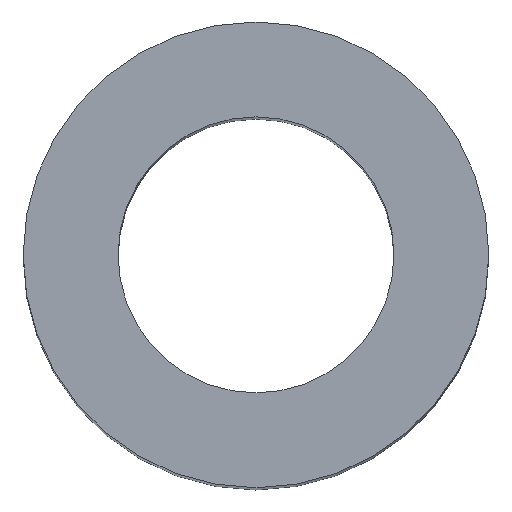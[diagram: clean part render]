
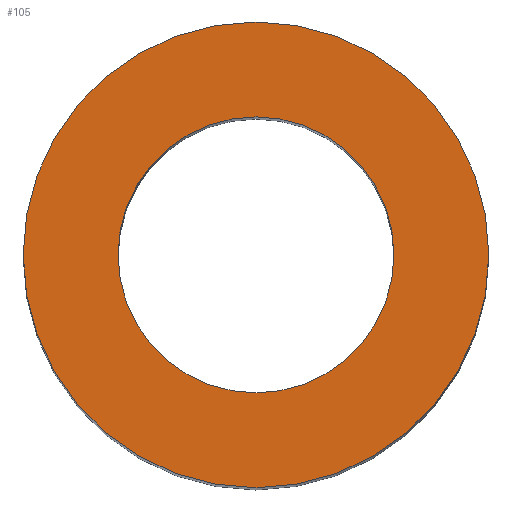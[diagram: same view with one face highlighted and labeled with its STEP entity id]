
A CAD part, top view. The second image highlights one B-rep face of the part: STEP entity #105.
In plain terms, the highlighted planar face has unit normal (0, 0, 1).
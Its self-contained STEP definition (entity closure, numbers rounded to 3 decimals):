
#21 = EDGE_CURVE('',#22,#22,#24,.T.);
#22 = VERTEX_POINT('',#23);
#23 = CARTESIAN_POINT('',(2.7,0.,15.2));
#24 = SURFACE_CURVE('',#25,(#30,#42),.PCURVE_S1.);
#25 = CIRCLE('',#26,2.7);
#26 = AXIS2_PLACEMENT_3D('',#27,#28,#29);
#27 = CARTESIAN_POINT('',(0.,0.,15.2));
#28 = DIRECTION('',(0.,0.,1.));
#29 = DIRECTION('',(1.,0.,-0.));
#30 = PCURVE('',#31,#36);
#31 = CYLINDRICAL_SURFACE('',#32,2.7);
#32 = AXIS2_PLACEMENT_3D('',#33,#34,#35);
#33 = CARTESIAN_POINT('',(0.,0.,0.));
#34 = DIRECTION('',(0.,0.,1.));
#35 = DIRECTION('',(1.,0.,-0.));
#36 = DEFINITIONAL_REPRESENTATION('',(#37),#41);
#37 = LINE('',#38,#39);
#38 = CARTESIAN_POINT('',(0.,15.2));
#39 = VECTOR('',#40,1.);
#40 = DIRECTION('',(1.,0.));
#41 = ( GEOMETRIC_REPRESENTATION_CONTEXT(2) 
PARAMETRIC_REPRESENTATION_CONTEXT() REPRESENTATION_CONTEXT('2D SPACE',''
  ) );
#42 = PCURVE('',#43,#48);
#43 = PLANE('',#44);
#44 = AXIS2_PLACEMENT_3D('',#45,#46,#47);
#45 = CARTESIAN_POINT('',(0.,0.,15.2));
#46 = DIRECTION('',(0.,0.,1.));
#47 = DIRECTION('',(1.,0.,-0.));
#48 = DEFINITIONAL_REPRESENTATION('',(#49),#53);
#49 = CIRCLE('',#50,2.7);
#50 = AXIS2_PLACEMENT_2D('',#51,#52);
#51 = CARTESIAN_POINT('',(0.,0.));
#52 = DIRECTION('',(1.,0.));
#53 = ( GEOMETRIC_REPRESENTATION_CONTEXT(2) 
PARAMETRIC_REPRESENTATION_CONTEXT() REPRESENTATION_CONTEXT('2D SPACE',''
  ) );
#105 = ADVANCED_FACE('',(#106,#109),#43,.T.);
#106 = FACE_BOUND('',#107,.T.);
#107 = EDGE_LOOP('',(#108));
#108 = ORIENTED_EDGE('',*,*,#21,.T.);
#109 = FACE_BOUND('',#110,.T.);
#110 = EDGE_LOOP('',(#111));
#111 = ORIENTED_EDGE('',*,*,#112,.F.);
#112 = EDGE_CURVE('',#113,#113,#115,.T.);
#113 = VERTEX_POINT('',#114);
#114 = CARTESIAN_POINT('',(1.6,0.,15.2));
#115 = SURFACE_CURVE('',#116,(#121,#128),.PCURVE_S1.);
#116 = CIRCLE('',#117,1.6);
#117 = AXIS2_PLACEMENT_3D('',#118,#119,#120);
#118 = CARTESIAN_POINT('',(0.,0.,15.2));
#119 = DIRECTION('',(0.,0.,1.));
#120 = DIRECTION('',(1.,0.,-0.));
#121 = PCURVE('',#43,#122);
#122 = DEFINITIONAL_REPRESENTATION('',(#123),#127);
#123 = CIRCLE('',#124,1.6);
#124 = AXIS2_PLACEMENT_2D('',#125,#126);
#125 = CARTESIAN_POINT('',(0.,0.));
#126 = DIRECTION('',(1.,0.));
#127 = ( GEOMETRIC_REPRESENTATION_CONTEXT(2) 
PARAMETRIC_REPRESENTATION_CONTEXT() REPRESENTATION_CONTEXT('2D SPACE',''
  ) );
#128 = PCURVE('',#129,#134);
#129 = CYLINDRICAL_SURFACE('',#130,1.6);
#130 = AXIS2_PLACEMENT_3D('',#131,#132,#133);
#131 = CARTESIAN_POINT('',(0.,0.,-1.));
#132 = DIRECTION('',(0.,0.,1.));
#133 = DIRECTION('',(1.,0.,-0.));
#134 = DEFINITIONAL_REPRESENTATION('',(#135),#139);
#135 = LINE('',#136,#137);
#136 = CARTESIAN_POINT('',(0.,16.2));
#137 = VECTOR('',#138,1.);
#138 = DIRECTION('',(1.,0.));
#139 = ( GEOMETRIC_REPRESENTATION_CONTEXT(2) 
PARAMETRIC_REPRESENTATION_CONTEXT() REPRESENTATION_CONTEXT('2D SPACE',''
  ) );
